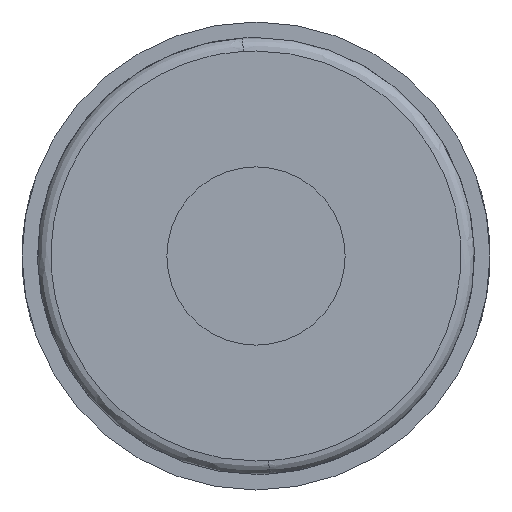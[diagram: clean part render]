
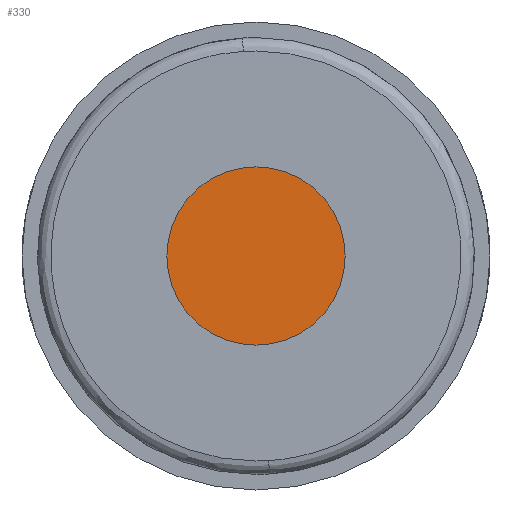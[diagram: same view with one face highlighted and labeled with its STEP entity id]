
A CAD part, left-side view. The second image highlights one B-rep face of the part: STEP entity #330.
In plain terms, the highlighted planar face has unit normal (-1, 0, 0).
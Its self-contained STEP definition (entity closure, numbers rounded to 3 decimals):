
#35 = AXIS2_PLACEMENT_3D ( 'NONE', #3318, #3299, #578 ) ;
#145 = DIRECTION ( 'NONE',  ( 0., 0., -1. ) ) ;
#330 = ADVANCED_FACE ( '68', ( #1788 ), #3678, .T. ) ;
#546 = CIRCLE ( 'NONE', #3476, 2. ) ;
#578 = DIRECTION ( 'NONE',  ( 0., 0., 1. ) ) ;
#1124 = ORIENTED_EDGE ( 'NONE', *, *, #2507, .T. ) ;
#1335 = CARTESIAN_POINT ( 'NONE',  ( -0.5, 0., -2. ) ) ;
#1342 = CARTESIAN_POINT ( 'NONE',  ( -0.5, 0., 0. ) ) ;
#1652 = DIRECTION ( 'NONE',  ( 0., 0., -1. ) ) ;
#1765 = CARTESIAN_POINT ( 'NONE',  ( -0.5, 0., 2. ) ) ;
#1788 = FACE_OUTER_BOUND ( 'NONE', #3519, .T. ) ;
#2278 = EDGE_CURVE ( 'NONE', #2759, #3822, #546, .T. ) ;
#2507 = EDGE_CURVE ( 'NONE', #3822, #2759, #3090, .T. ) ;
#2543 = DIRECTION ( 'NONE',  ( -1., 0., 0. ) ) ;
#2596 = CARTESIAN_POINT ( 'NONE',  ( -0.5, 0., 0. ) ) ;
#2759 = VERTEX_POINT ( 'NONE', #1765 ) ;
#3090 = CIRCLE ( 'NONE', #3661, 2. ) ;
#3299 = DIRECTION ( 'NONE',  ( -1., 0., 0. ) ) ;
#3318 = CARTESIAN_POINT ( 'NONE',  ( -0.5, 2.5, 2.4 ) ) ;
#3476 = AXIS2_PLACEMENT_3D ( 'NONE', #1342, #2543, #1652 ) ;
#3519 = EDGE_LOOP ( 'NONE', ( #1124, #3603 ) ) ;
#3583 = DIRECTION ( 'NONE',  ( -1., 0., 0. ) ) ;
#3603 = ORIENTED_EDGE ( 'NONE', *, *, #2278, .T. ) ;
#3661 = AXIS2_PLACEMENT_3D ( 'NONE', #2596, #3583, #145 ) ;
#3678 = PLANE ( 'NONE',  #35 ) ;
#3822 = VERTEX_POINT ( 'NONE', #1335 ) ;
